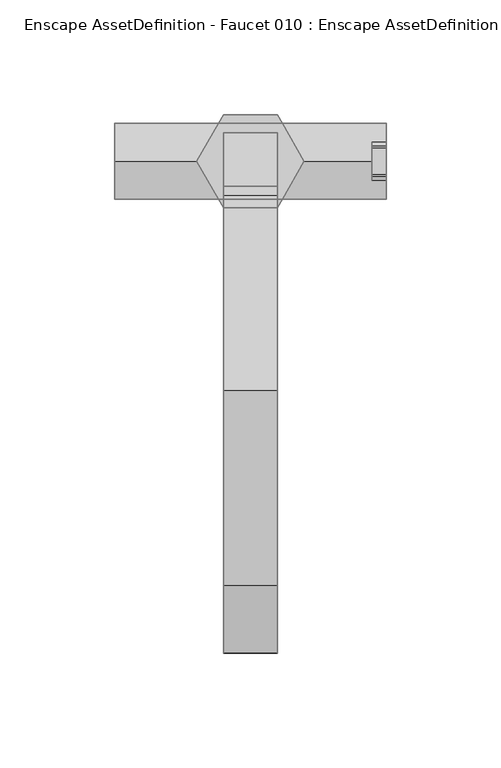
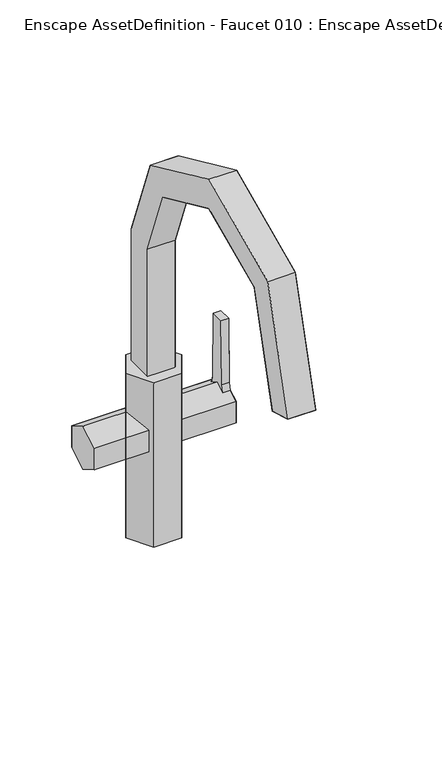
"""IFC4 building model written with IfcOpenShell, lengths in millimetres: geographic element geometry, Enscape AssetDefinition - Faucet 010 : Enscape AssetDefinition - Faucet 010."""

from ifc_helpers import new_model, si_unit, origin, place, context, project, spatial, triangles, source, transform, mapped, element, save


def enscape_assetdefinition_faucet_010_enscape_assetdefinition_639291e5(model_context):
    return source(origin(), model_context, "Body", "Tessellation", [
        triangles([(23.4409997, 0.0, 0.0), (-11.7200002, -20.3000009, 0.0), (-11.7200002, 20.3000009, 0.0), (-23.4409997, 0.0, 0.0), (-23.4409997, 0.0, 145.5239935), (11.7200002, -20.3000009, 145.5239935), (23.4409997, 0.0, 145.5239935), (-11.7200002, -20.3000009, 145.5239935), (11.7200002, -20.3000009, 0.0), (11.7200002, 20.3000009, 145.5239935), (11.7200002, 20.3000009, 0.0), (-11.7200002, 20.3000009, 145.5239935), (-11.6959998, -165.4970022, 317.9760126), (-11.6959998, -192.1270082, 224.4010012), (11.7039992, -100.0000008, 347.8870139), (11.7039992, -165.4970022, 317.9760126), (11.7039992, -192.1270082, 224.4010012), (-11.6959998, -185.0460088, 334.7729888), (-11.6959998, -214.633011, 230.8059882), (-11.6959998, -100.0000008, 373.6119699), (-11.6959998, -100.0000008, 347.8870139), (11.7039992, -185.0460088, 334.7729888), (-11.6959998, -33.4509992, 317.4949737), (11.7039992, -100.0000008, 373.6119699), (11.7039992, -214.633011, 230.8059882), (11.7039992, -33.4509992, 317.4949737), (-11.6959998, -10.9319999, 257.7109956), (-11.6959998, -14.9539996, 334.7729888), (11.7039992, -14.9539996, 334.7729888), (11.7039992, 12.4680003, 261.9720182), (11.7039992, -10.9319999, 257.7109956), (11.7039992, 12.4680003, 142.6569991), (-11.6959998, -10.9319999, 142.6569991), (11.7039992, -10.9319999, 142.6569991), (-11.6959998, 12.4680003, 261.9720182), (-11.6959998, 12.4680003, 142.6569991), (-59.3469998, -16.5100002, 101.6789953), (-59.3469998, 0.0, 73.0829982), (52.9640001, -8.2550001, 106.4450016), (52.9640001, 0.0, 111.2109989), (52.9640001, 8.2550001, 106.4450016), (-59.3469998, 0.0, 111.2109989), (59.3469998, -8.2550001, 106.4450016), (59.3469998, 8.2550001, 106.4450016), (59.3469998, 6.6349999, 112.5880042), (52.9640001, 6.6349999, 112.5880042), (59.3469998, 5.5669999, 168.7559966), (59.3469998, -5.5669999, 168.7559966), (59.3469998, -16.5100002, 101.6789953), (-59.3469998, -16.5100002, 82.6150063), (59.3469998, -16.5100002, 82.6150063), (59.3469998, 0.0, 73.0829982), (-59.3469998, 16.5100002, 82.6150063), (-59.3469998, 16.5100002, 101.6789953), (59.3469998, 16.5100002, 101.6789953), (59.3469998, 16.5100002, 82.6150063), (59.3469998, -6.6349999, 112.5880042), (52.9640001, -6.6349999, 112.5880042), (52.9640001, 5.5669999, 168.7559966), (52.9640001, -5.5669999, 168.7559966)], [[48, 47, 59], [59, 60, 48], [58, 57, 48], [48, 60, 58], [58, 60, 59], [43, 57, 58], [54, 55, 56], [56, 53, 54], [54, 53, 38], [52, 56, 55], [52, 38, 53], [53, 56, 52], [38, 52, 51], [51, 50, 38], [49, 52, 55], [49, 51, 52], [50, 51, 49], [43, 49, 44], [49, 55, 44], [45, 57, 43], [43, 44, 45], [45, 47, 48], [48, 57, 45], [59, 47, 45], [59, 46, 58], [45, 46, 59], [45, 44, 41], [41, 46, 45], [44, 55, 41], [54, 41, 55], [40, 58, 46], [41, 40, 46], [58, 39, 43], [40, 39, 58], [49, 43, 39], [42, 40, 41], [54, 42, 41], [42, 39, 40], [42, 37, 39], [37, 49, 39], [49, 37, 50], [50, 37, 38], [37, 54, 38], [37, 42, 54], [35, 36, 33], [27, 33, 34], [33, 27, 35], [31, 34, 32], [34, 31, 27], [30, 32, 36], [36, 35, 30], [32, 30, 31], [29, 30, 35], [35, 28, 29], [28, 35, 27], [23, 27, 31], [27, 23, 28], [26, 31, 30], [30, 29, 26], [31, 26, 23], [15, 26, 29], [24, 29, 28], [29, 24, 15], [16, 15, 24], [24, 22, 16], [17, 16, 22], [22, 25, 17], [28, 20, 24], [20, 28, 23], [22, 24, 20], [21, 23, 26], [26, 15, 21], [23, 21, 20], [20, 18, 22], [18, 20, 21], [25, 22, 18], [17, 25, 19], [18, 19, 25], [19, 14, 17], [16, 17, 14], [13, 21, 15], [15, 16, 13], [21, 13, 18], [14, 13, 16], [19, 18, 13], [13, 14, 19], [7, 10, 12], [12, 10, 11], [10, 7, 1], [1, 11, 10], [9, 1, 7], [7, 6, 9], [6, 7, 8], [7, 12, 8], [12, 5, 8], [5, 12, 3], [11, 3, 12], [3, 11, 1], [8, 5, 4], [3, 4, 5], [6, 8, 2], [2, 9, 6], [4, 2, 8], [9, 2, 1], [2, 3, 1], [2, 4, 3]], closed=False),
    ])


if __name__ == "__main__":
    model = new_model("IFC4")
    model_context = context("Model", 3, world=origin())
    ifc_project = project(units=[si_unit("LENGTHUNIT", "METRE", prefix="MILLI")], contexts=[model_context])
    site = spatial("IfcSite", under=ifc_project)
    building = spatial("IfcBuilding", under=site)
    placement = place(None, origin())
    enscape_assetdefinition_faucet_010_enscape_assetdefinition_shape = enscape_assetdefinition_faucet_010_enscape_assetdefinition_639291e5(model_context)
    element("IfcGeographicElement", 1, ObjectType="Enscape AssetDefinition - Faucet 010 : Enscape AssetDefinition - Faucet 010", at=placement, inside=building, context=model_context, shape_type="MappedRepresentation", body=[
        mapped(enscape_assetdefinition_faucet_010_enscape_assetdefinition_shape, transform((0.0, 0.0, 0.0), x_axis=(1.0, 0.0, 0.0), y_axis=(0.0, 1.0, 0.0), z_axis=(0.0, 0.0, 1.0))),
    ])
    save(model, "model.ifc")
